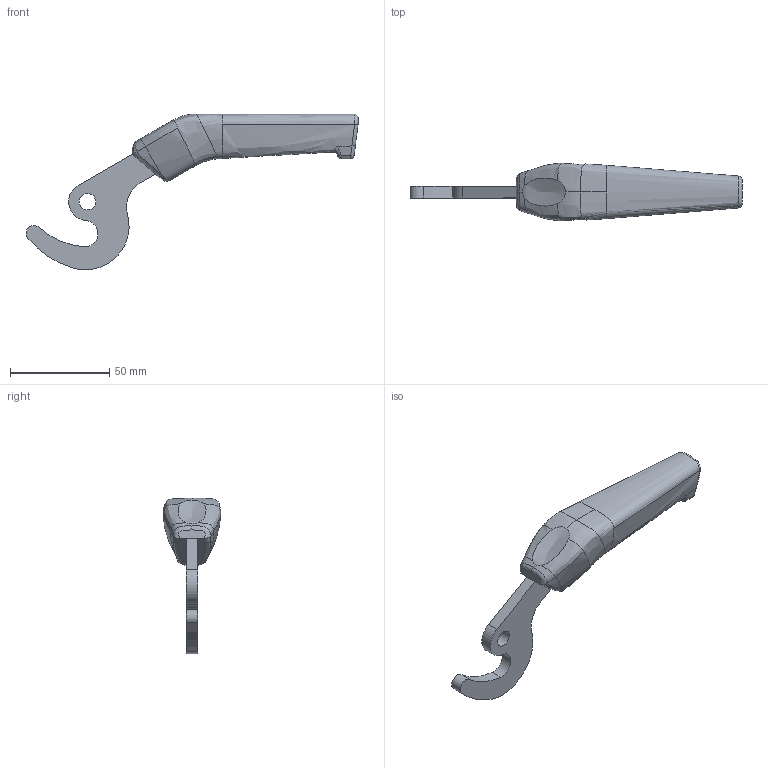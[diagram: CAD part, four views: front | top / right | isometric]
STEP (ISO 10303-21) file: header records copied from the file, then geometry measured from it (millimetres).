
FILE_DESCRIPTION( ('This file contains a STEP AP42 implementation' ,'as created by ZW3D STEP Interface translator.') ,'2;1' );
FILE_NAME( 'Raczka drzwiczek A4.stp' ,'26 826.101723', (''), ('ZWCAD Software Co.'), 'Version 1.0', 'ZW3D to STEP translator', '' );
FILE_SCHEMA(('AP242_MANAGED_MODEL_BASED_3D_ENGINEERING_MIM_LF { 1 0 10303 442 1 1 4 }'));
Length unit declared in the file: millimetre
Products named in the file (1): 0
Bounding box: 167.66 x 28.99 x 78.71 mm (x, y, z)
Volume: 60371.1 mm3; surface area: 17699.9 mm2
Topology: 2 solids, 2 shells, 79 faces, 205 edges, 127 vertices
Faces by surface type: bspline 45, plane 18, cylinder 16
Full cylindrical faces by diameter (mm): 8.3 x1
Entity records: 10431 total; most frequent: CARTESIAN_POINT 8798, ORIENTED_EDGE 402, EDGE_CURVE 201, DIRECTION 183, VERTEX_POINT 126, B_SPLINE_CURVE_WITH_KNOTS 106, EDGE_LOOP 81, FACE_OUTER_BOUND 79
